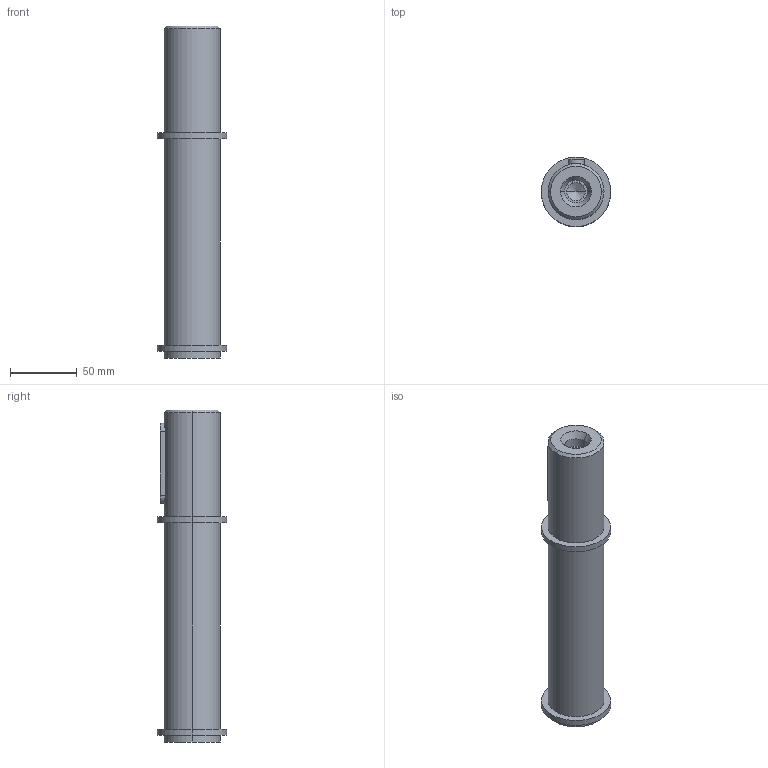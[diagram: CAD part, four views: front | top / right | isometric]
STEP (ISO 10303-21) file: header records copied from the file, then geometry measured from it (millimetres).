
FILE_DESCRIPTION(/* description */ (''),/* implementation_level */ '2;1');
FILE_NAME(/* name */ '4_ALBERO LENTO SEMPLICE NMRV-P110',/* time_stamp */ '2025-10-09T15:37:53+02:00',/* author */ (''),/* organization */ (''),/* preprocessor_version */ 'ST-DEVELOPER v19.2',/* originating_system */ 'Rhino 8.23',/* authorisation */ '');
FILE_SCHEMA (('CONFIG_CONTROL_DESIGN'));
Length unit declared in the file: millimetre
Products named in the file (2): Document; AL 110-42(1-1)-p
Bounding box: 52 x 52 x 249 mm (x, y, z)
Volume: 345298.7 mm3; surface area: 41203.8 mm2
Topology: 1 solids, 1 shells, 32 faces, 66 edges, 41 vertices
Faces by surface type: cylinder 16, plane 10, bspline 6
Entity records: 1112 total; most frequent: CARTESIAN_POINT 307, ORIENTED_EDGE 128, DIRECTION 102, EDGE_CURVE 64, AXIS2_PLACEMENT_3D 64, VERTEX_POINT 41, EDGE_LOOP 39, TRIMMED_CURVE 34
